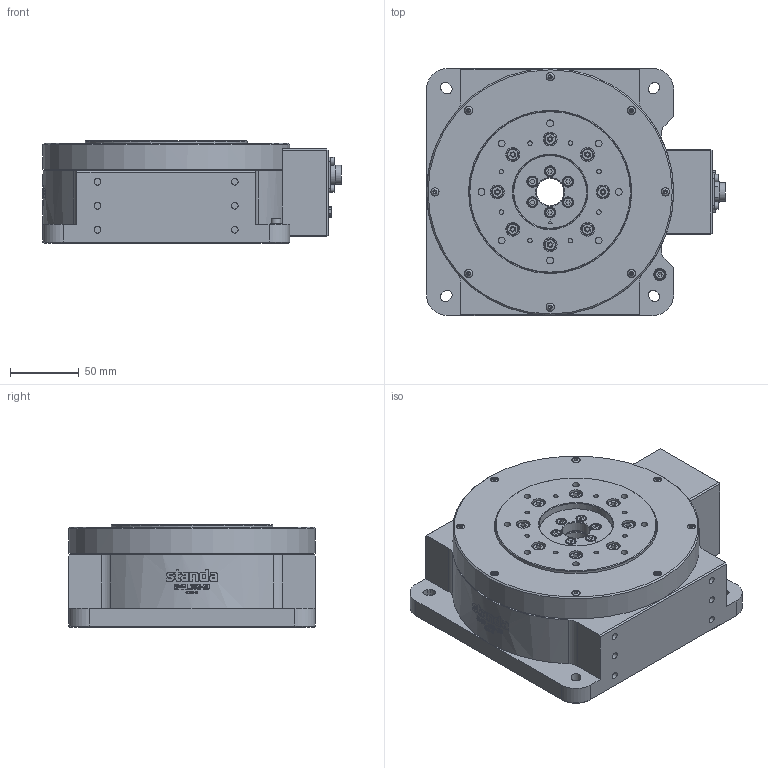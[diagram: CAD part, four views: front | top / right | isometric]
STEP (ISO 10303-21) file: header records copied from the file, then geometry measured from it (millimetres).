
FILE_DESCRIPTION(/* description */ (''),/* implementation_level */ '2;1');
FILE_NAME(/* name */ 'U:\KONSTRUKTORIAI\DOKUMENTACIJA\8\8MRL ser\8MRL182-20\STEP\8MRL182-20 SB.stp',/* time_stamp */ '2021-09-08T09:30:52+03:00',/* author */ ('dsgn32'),/* organization */ (''),/* preprocessor_version */ 'ST-DEVELOPER v15.2',/* originating_system */ 'Autodesk Inventor 2014',/* authorisation */ '');
FILE_SCHEMA (('AUTOMOTIVE_DESIGN','AUTOMOTIVE_DESIGN { 1 0 10303 214 3 1 1 }'));
Products named in the file (1): 8MRL182-20 SB
Bounding box: 217.7 x 180 x 75 mm (x, y, z)
Volume: 2116609.5 mm3; surface area: 153295.3 mm2
Topology: 2 solids, 34 shells, 1674 faces, 4150 edges, 2738 vertices
Faces by surface type: plane 878, cylinder 376, bspline 265, cone 84, torus 52, sphere 19
Full cylindrical faces by diameter (mm): 1 x15, 1.5 x8, 2.459 x11, 2.5 x4, 2.9 x2, 3 x12, 3.2 x6, 3.242 x17, 3.302 x2, 3.5 x8, 4 x1, 4.3 x1, 4.5 x8, 4.917 x24, 5.5 x8, 5.7 x8, 6 x12, 7 x7, 8 x6, 8.5 x16, 9 x1, 10 x16, 11.4 x1, 12 x1, 13.8 x1, 15.4 x1, 17 x1, 18.4 x1, 20 x3, 20.5 x1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
Entity records: 91073 total; most frequent: CARTESIAN_POINT 54160, ORIENTED_EDGE 7224, DIRECTION 6461, EDGE_CURVE 3612, VERTEX_POINT 2544, AXIS2_PLACEMENT_3D 2336, EDGE_LOOP 2266, LINE 1789
